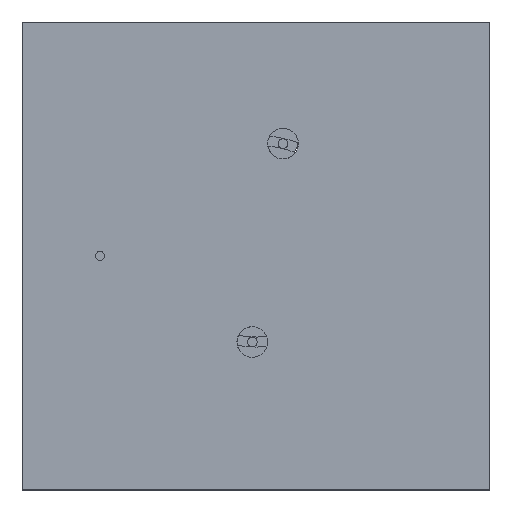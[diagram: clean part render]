
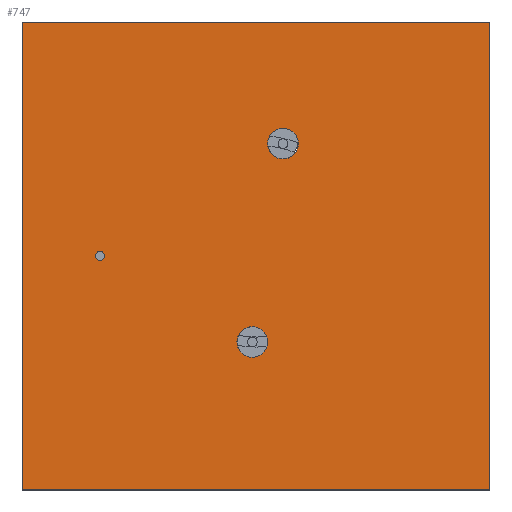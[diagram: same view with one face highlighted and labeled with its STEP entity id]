
A CAD part, top view. The second image highlights one B-rep face of the part: STEP entity #747.
In plain terms, the highlighted planar face has unit normal (0, 0, 1).
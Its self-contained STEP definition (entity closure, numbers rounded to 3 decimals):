
#747 = ADVANCED_FACE( '', ( #1619, #1620, #1621, #1622 ), #1623, .T. );
#1619 = FACE_BOUND( '', #2633, .T. );
#1620 = FACE_BOUND( '', #2634, .T. );
#1621 = FACE_BOUND( '', #2635, .T. );
#1622 = FACE_OUTER_BOUND( '', #2636, .T. );
#1623 = PLANE( '', #2637 );
#2633 = EDGE_LOOP( '', ( #4445 ) );
#2634 = EDGE_LOOP( '', ( #4446 ) );
#2635 = EDGE_LOOP( '', ( #4447 ) );
#2636 = EDGE_LOOP( '', ( #4448, #4449, #4450, #4451 ) );
#2637 = AXIS2_PLACEMENT_3D( '', #4452, #4453, #4454 );
#4445 = ORIENTED_EDGE( '', *, *, #5935, .F. );
#4446 = ORIENTED_EDGE( '', *, *, #5846, .F. );
#4447 = ORIENTED_EDGE( '', *, *, #5936, .F. );
#4448 = ORIENTED_EDGE( '', *, *, #5730, .T. );
#4449 = ORIENTED_EDGE( '', *, *, #5937, .T. );
#4450 = ORIENTED_EDGE( '', *, *, #5938, .T. );
#4451 = ORIENTED_EDGE( '', *, *, #5794, .T. );
#4452 = CARTESIAN_POINT( '', ( 0., 0., 30. ) );
#4453 = DIRECTION( '', ( 0., 0., 1. ) );
#4454 = DIRECTION( '', ( 1., 0., 0. ) );
#5730 = EDGE_CURVE( '', #6898, #6896, #6899, .T. );
#5794 = EDGE_CURVE( '', #6984, #6898, #6985, .T. );
#5846 = EDGE_CURVE( '', #7058, #7058, #7059, .T. );
#5935 = EDGE_CURVE( '', #7184, #7184, #7185, .T. );
#5936 = EDGE_CURVE( '', #7186, #7186, #7187, .T. );
#5937 = EDGE_CURVE( '', #6896, #7188, #7189, .T. );
#5938 = EDGE_CURVE( '', #7188, #6984, #7190, .T. );
#6896 = VERTEX_POINT( '', #8466 );
#6898 = VERTEX_POINT( '', #8469 );
#6899 = LINE( '', #8470, #8471 );
#6984 = VERTEX_POINT( '', #8584 );
#6985 = LINE( '', #8585, #8586 );
#7058 = VERTEX_POINT( '', #8694 );
#7059 = CIRCLE( '', #8695, 25. );
#7184 = VERTEX_POINT( '', #8846 );
#7185 = CIRCLE( '', #8847, 7.5 );
#7186 = VERTEX_POINT( '', #8848 );
#7187 = CIRCLE( '', #8849, 25. );
#7188 = VERTEX_POINT( '', #8850 );
#7189 = LINE( '', #8851, #8852 );
#7190 = LINE( '', #8853, #8854 );
#8466 = CARTESIAN_POINT( '', ( 0., 762., 30. ) );
#8469 = CARTESIAN_POINT( '', ( 762., 762., 30. ) );
#8470 = CARTESIAN_POINT( '', ( 762., 762., 30. ) );
#8471 = VECTOR( '', #9649, 1000. );
#8584 = CARTESIAN_POINT( '', ( 762., 0., 30. ) );
#8585 = CARTESIAN_POINT( '', ( 762., 0., 30. ) );
#8586 = VECTOR( '', #9714, 1000. );
#8694 = CARTESIAN_POINT( '', ( 450., 564., 30. ) );
#8695 = AXIS2_PLACEMENT_3D( '', #9759, #9760, #9761 );
#8846 = CARTESIAN_POINT( '', ( 134.5, 381., 30. ) );
#8847 = AXIS2_PLACEMENT_3D( '', #9872, #9873, #9874 );
#8848 = CARTESIAN_POINT( '', ( 400., 241., 30. ) );
#8849 = AXIS2_PLACEMENT_3D( '', #9875, #9876, #9877 );
#8850 = CARTESIAN_POINT( '', ( 0., 0., 30. ) );
#8851 = CARTESIAN_POINT( '', ( 0., 762., 30. ) );
#8852 = VECTOR( '', #9878, 1000. );
#8853 = CARTESIAN_POINT( '', ( 0., 0., 30. ) );
#8854 = VECTOR( '', #9879, 1000. );
#9649 = DIRECTION( '', ( -1., 0., 0. ) );
#9714 = DIRECTION( '', ( 0., 1., 0. ) );
#9759 = CARTESIAN_POINT( '', ( 425., 564., 30. ) );
#9760 = DIRECTION( '', ( 0., 0., 1. ) );
#9761 = DIRECTION( '', ( 1., 0., 0. ) );
#9872 = CARTESIAN_POINT( '', ( 127., 381., 30. ) );
#9873 = DIRECTION( '', ( 0., 0., 1. ) );
#9874 = DIRECTION( '', ( 1., 0., 0. ) );
#9875 = CARTESIAN_POINT( '', ( 375., 241., 30. ) );
#9876 = DIRECTION( '', ( 0., 0., 1. ) );
#9877 = DIRECTION( '', ( 1., 0., 0. ) );
#9878 = DIRECTION( '', ( 0., -1., 0. ) );
#9879 = DIRECTION( '', ( 1., 0., 0. ) );
